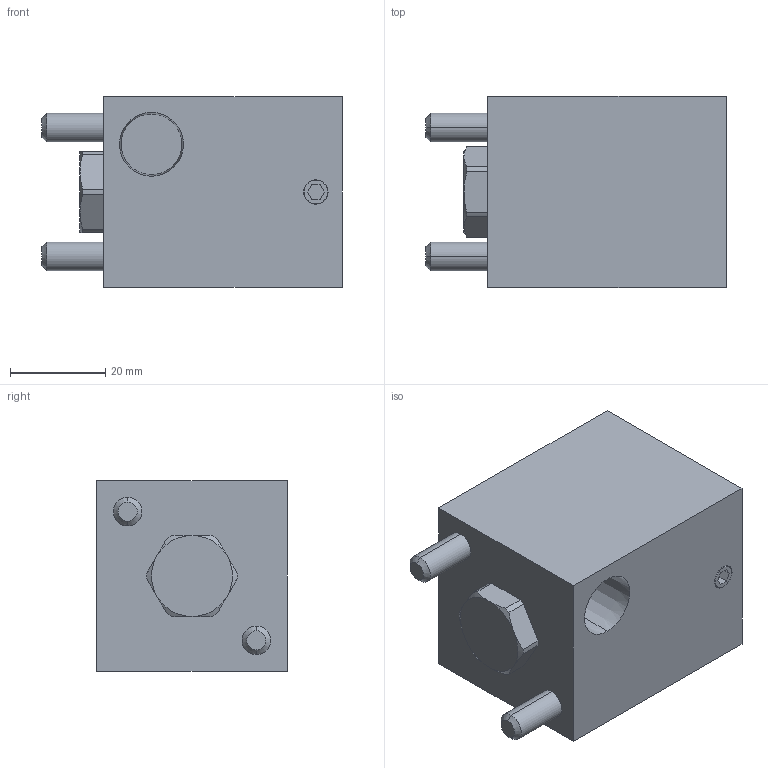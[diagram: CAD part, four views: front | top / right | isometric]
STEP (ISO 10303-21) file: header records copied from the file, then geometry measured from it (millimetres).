
FILE_DESCRIPTION (( 'STEP AP203' ), '1' );
FILE_NAME ('JKB0x0-0S.step', '2010-03-15T09:09:23', ( ' ' ), ( ' ' ), 'SwSTEP 2.0', 'SolidWorks 2009', '' );
FILE_SCHEMA (( 'CONFIG_CONTROL_DESIGN' ));
Length unit declared in the file: millimetre
Products named in the file (4): JKB0x0-0S.sldasm-Part-3; JKB0x0-0S; JKB0x0-0S.sldasm-Part-1; JKB0x0-0S.sldasm-Part-2
Assembly tree (3 placements, depth 2):
  JKB0x0-0S
    JKB0x0-0S.sldasm-Part-3
    JKB0x0-0S.sldasm-Part-1
    JKB0x0-0S.sldasm-Part-2
Bounding box: 63 x 40 x 40 mm (x, y, z)
Volume: 78963.1 mm3; surface area: 14392.4 mm2
Topology: 3 solids, 4 shells, 108 faces, 244 edges, 158 vertices
Faces by surface type: plane 56, cylinder 30, cone 22
Entity records: 3482 total; most frequent: CARTESIAN_POINT 580, DIRECTION 550, ORIENTED_EDGE 488, EDGE_CURVE 244, AXIS2_PLACEMENT_3D 204, VERTEX_POINT 158, VECTOR 142, LINE 142
